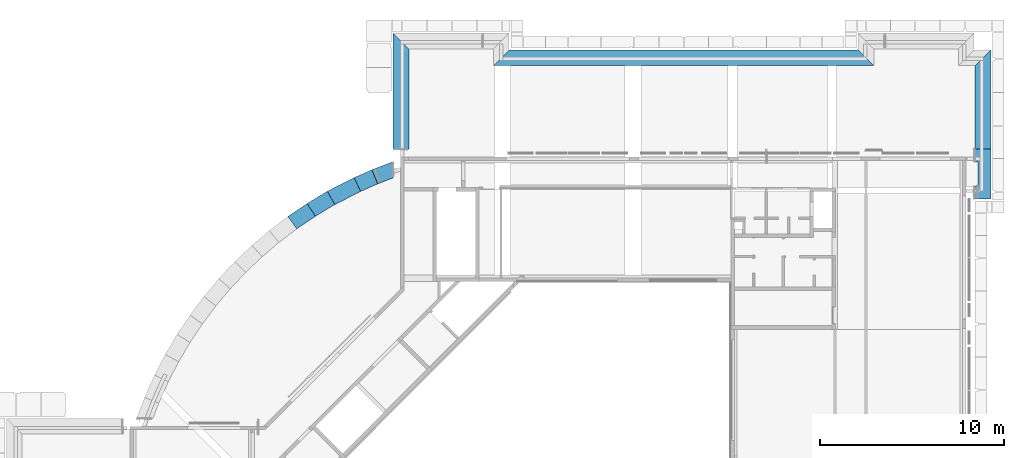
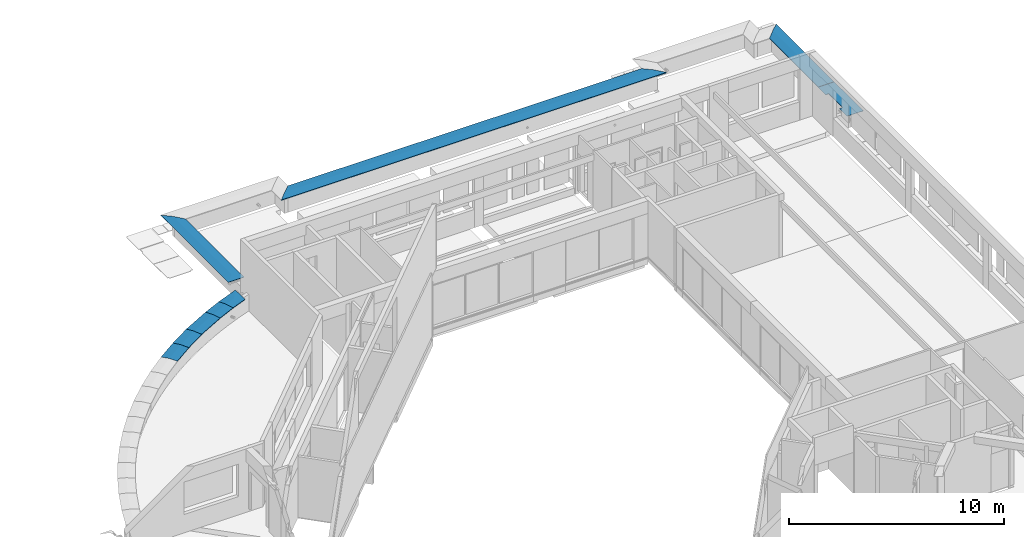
# One storey, part 32 of 38: 9 discrete accessories.
"""IFC4X3_ADD2 building model written with IfcOpenShell, lengths in millimetres."""

from ifc_helpers import new_model, si_unit, direction, frame, origin_with_axes, place, context, subcontext, project, spatial, polygons, source, transform, mapped, material, element, save


model = new_model("IFC4X3_ADD2")

# Units and contexts
model_context = context("Model", 3, precision=1e-05, world=origin_with_axes(), true_north=direction((0.0, 1.0)))
body_context = subcontext(model_context, "Body", "Model", "MODEL_VIEW")
ifc_project = project(units=[si_unit("LENGTHUNIT", "METRE", prefix="MILLI"), si_unit("AREAUNIT", "SQUARE_METRE"), si_unit("VOLUMEUNIT", "CUBIC_METRE"), si_unit("PLANEANGLEUNIT", "RADIAN"), si_unit("TIMEUNIT", "SECOND"), si_unit("MASSUNIT", "GRAM")], contexts=[model_context])

# Site, building, storey
site_placement = place(None, origin_with_axes())
site = spatial("IfcSite", under=ifc_project, at=site_placement, Name="Site", CompositionType="ELEMENT")
building_placement = place(site_placement, origin_with_axes())
building = spatial("IfcBuilding", under=site, at=building_placement, Name="IFC Building Story")
storey_placement = place(building_placement, frame((0.0, 0.0, 10800.0), z_axis=(0.0, 0.0, 1.0), x_axis=(1.0, 0.0, 0.0)))
storey = spatial("IfcBuildingStorey", under=building, at=storey_placement, Name="030", Elevation=10800.0)

# Discrete accessories
ifc_material = material(Name="BB_Metaal_Aluminium_Buitenschrijnwerk")
shared_shape_1 = source(origin_with_axes(), body_context, "Body", "Tessellation", [
    polygons([(-374.999999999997, 374.999999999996, 35.1750423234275), (46.4641064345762, -46.4641064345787, -1.69828907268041), (32.0000000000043, -32.0000000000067, -23.3944487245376), (32.0000000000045, -32.0000000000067, -20.0000000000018), (30.000000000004, -30.0000000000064, -20.0000000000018), (30.000000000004, -30.0000000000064, -30.0000000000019), (50.000000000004, -50.0000000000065, -2.85747255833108e-12), (-374.999999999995, 374.999999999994, 37.1826819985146), (-799.999999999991, 799.999999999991, -2.8523960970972e-12), (-799.999999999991, 799.999999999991, -30.0000000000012), (-789.99999999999, 789.999999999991, -20.0000000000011), (-791.414213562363, 791.414213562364, -18.5857864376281), (-797.999999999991, 797.999999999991, -25.1715728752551), (-797.999999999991, 797.999999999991, -1.832662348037), (19033.5358935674, -46.4641064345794, -1.69828907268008), (19455.0000000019, 374.999999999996, 35.1750423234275), (19878.0000000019, 797.999999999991, -1.83266234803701), (19878.0000000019, 797.999999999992, -25.1715728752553), (19871.4142135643, 791.414213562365, -18.5857864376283), (19870.0000000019, 789.999999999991, -20.0000000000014), (19880.0000000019, 799.999999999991, -30.0), (19880.0000000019, 799.999999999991, -2.78471690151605e-12), (19455.0000000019, 374.999999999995, 37.1826819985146), (19030.0000000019, -50.0000000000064, -2.86984511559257e-12), (19050.0000000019, -30.0000000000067, -30.0000000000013), (19050.0000000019, -30.0000000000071, -20.0000000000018), (19048.0000000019, -32.0000000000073, -20.0000000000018), (19048.0000000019, -32.0000000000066, -23.3944487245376)], [[[3, 4, 5]], [[3, 5, 6]], [[6, 7, 2]], [[6, 2, 3]], [[7, 8, 1]], [[7, 1, 2]], [[14, 1, 8]], [[14, 8, 9]], [[9, 10, 13]], [[9, 13, 14]], [[10, 11, 12]], [[10, 12, 13]], [[18, 19, 20]], [[18, 20, 21]], [[21, 22, 17]], [[21, 17, 18]], [[22, 23, 16]], [[22, 16, 17]], [[23, 24, 15]], [[23, 15, 16]], [[28, 15, 24]], [[28, 24, 25]], [[25, 26, 28]], [[26, 27, 28]], [[2, 1, 16, 15]], [[4, 3, 28, 27]], [[3, 2, 15, 28]], [[6, 5, 26, 25]], [[8, 7, 24, 23]], [[7, 6, 25, 24]], [[9, 8, 23, 22]], [[5, 4, 27, 26]], [[1, 14, 17, 16]], [[10, 9, 22, 21]], [[11, 10, 21, 20]], [[12, 11, 20, 19]], [[13, 12, 19, 18]], [[14, 13, 18, 17]]]),
])
discrete_accessory_1_placement = place(storey_placement, frame((-5725.0, 51150.0, 830.0), z_axis=(0.0, 0.0, 1.0), x_axis=(-1.0, 0.0, 0.0)))
element("IfcDiscreteAccessory", 1, at=discrete_accessory_1_placement, inside=storey, material=ifc_material, Name="BB_05.10.23#02_AluminiumMuurafdek, 850 mm_GLI:XX_Geen", ObjectType="BB_05.10.23#02_AluminiumMuurafdek, 850 mm_GLI:XX_Geen", PredefinedType="USERDEFINED", context=body_context, shape_type="MappedRepresentation", body=[
    mapped(shared_shape_1, transform((0.0, 0.0, 0.0))),
])
shared_shape_2 = source(origin_with_axes(), body_context, "Body", "Tessellation", [
    polygons([(-1.29786000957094, -46.4641064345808, -1.69828907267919), (-0.893840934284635, -32.0000000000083, -23.3944487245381), (-0.89384093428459, -32.0000000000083, -20.0000000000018), (-0.837975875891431, -30.0000000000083, -20.0000000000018), (-0.837975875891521, -30.0000000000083, -30.0000000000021), (-1.3966264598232, -50.0000000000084, -1.89691848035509e-12), (10.1953731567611, 364.999999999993, 36.3077953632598), (21.7873727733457, 779.999999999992, -1.76670900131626e-12), (21.7873727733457, 779.999999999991, -30.0000000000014), (21.5080474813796, 769.999999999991, -20.0000000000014), (21.5475500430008, 771.414213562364, -18.5857864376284), (21.7315077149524, 777.999999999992, -25.1715728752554), (21.7315077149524, 777.999999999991, -1.83266234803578), (10.1953731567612, 364.999999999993, 34.300155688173), (1631.69860786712, -32.0000000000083, -23.3944487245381), (1632.10262694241, -46.4641064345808, -1.69828907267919), (1620.60939377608, 364.999999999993, 34.300155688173), (1609.07325921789, 777.999999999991, -1.83266234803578), (1609.07325921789, 777.999999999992, -25.1715728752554), (1609.25721688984, 771.414213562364, -18.5857864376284), (1609.29671945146, 769.999999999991, -20.0000000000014), (1609.01739415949, 779.999999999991, -30.0000000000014), (1609.01739415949, 779.999999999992, -1.76670900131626e-12), (1620.60939377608, 364.999999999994, 36.3077953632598), (1632.20139339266, -50.0000000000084, -1.89691848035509e-12), (1631.64274280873, -30.0000000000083, -30.0000000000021), (1631.64274280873, -30.0000000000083, -20.0000000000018), (1631.69860786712, -32.0000000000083, -20.0000000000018)], [[[2, 3, 4]], [[2, 4, 5]], [[5, 6, 1]], [[5, 1, 2]], [[14, 1, 6]], [[14, 6, 7]], [[7, 8, 13]], [[7, 13, 14]], [[8, 9, 12]], [[8, 12, 13]], [[9, 10, 11]], [[9, 11, 12]], [[19, 20, 21]], [[19, 21, 22]], [[22, 23, 18]], [[22, 18, 19]], [[23, 24, 17]], [[23, 17, 18]], [[24, 25, 16]], [[24, 16, 17]], [[25, 26, 15]], [[25, 15, 16]], [[26, 27, 15]], [[27, 28, 15]], [[2, 1, 16, 15]], [[1, 14, 17, 16]], [[7, 6, 25, 24]], [[4, 3, 28, 27]], [[6, 5, 26, 25]], [[3, 2, 15, 28]], [[5, 4, 27, 26]], [[8, 7, 24, 23]], [[14, 13, 18, 17]], [[9, 8, 23, 22]], [[10, 9, 22, 21]], [[11, 10, 21, 20]], [[12, 11, 20, 19]], [[13, 12, 19, 18]]]),
])
discrete_accessory_2_placement = place(storey_placement, frame((-33169.1264864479, 44200.419411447, 830.0), z_axis=(0.0, 0.0, 1.0), x_axis=(-0.8918658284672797, -0.4523000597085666, 0.0)))
element("IfcDiscreteAccessory", 2, at=discrete_accessory_2_placement, inside=storey, material=ifc_material, Name="BB_05.10.23#04_AluminiumMuurafdek, 830 mm_GLI:XX_Geen", ObjectType="BB_05.10.23#04_AluminiumMuurafdek, 830 mm_GLI:XX_Geen", PredefinedType="USERDEFINED", context=body_context, shape_type="MappedRepresentation", body=[
    mapped(shared_shape_2, transform((0.0, 0.0, 0.0))),
])
shared_shape_3 = source(origin_with_axes(), body_context, "Body", "Tessellation", [
    polygons([(-1.29786000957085, -46.4641064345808, -1.69828907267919), (-0.89384093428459, -32.0000000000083, -23.3944487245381), (-0.89384093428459, -32.0000000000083, -20.0000000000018), (-0.837975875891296, -30.0000000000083, -20.0000000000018), (-0.837975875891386, -30.0000000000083, -30.0000000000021), (-1.3966264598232, -50.0000000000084, -1.89691848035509e-12), (10.1953731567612, 364.999999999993, 36.3077953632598), (21.7873727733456, 779.999999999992, -1.76670900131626e-12), (21.7873727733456, 779.999999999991, -30.0000000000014), (21.5080474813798, 769.999999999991, -20.0000000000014), (21.547550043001, 771.414213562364, -18.5857864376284), (21.7315077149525, 777.999999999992, -25.1715728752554), (21.7315077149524, 777.999999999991, -1.83266234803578), (10.1953731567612, 364.999999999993, 34.300155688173), (1053.67207705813, -32.0000000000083, -23.3944487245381), (1054.07609613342, -46.4641064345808, -1.69828907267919), (1042.58286296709, 364.999999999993, 34.300155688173), (1031.0467284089, 777.999999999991, -1.83266234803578), (1031.0467284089, 777.999999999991, -25.1715728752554), (1031.23068608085, 771.414213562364, -18.5857864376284), (1031.27018864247, 769.999999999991, -20.0000000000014), (1030.9908633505, 779.999999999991, -30.0000000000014), (1030.9908633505, 779.999999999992, -1.76670900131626e-12), (1042.58286296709, 364.999999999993, 36.3077953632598), (1054.17486258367, -50.0000000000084, -1.89691848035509e-12), (1053.61621199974, -30.0000000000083, -30.0000000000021), (1053.61621199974, -30.0000000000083, -20.0000000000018), (1053.67207705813, -32.0000000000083, -20.0000000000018)], [[[2, 3, 4]], [[2, 4, 5]], [[5, 6, 1]], [[5, 1, 2]], [[14, 1, 6]], [[14, 6, 7]], [[7, 8, 13]], [[7, 13, 14]], [[8, 9, 12]], [[8, 12, 13]], [[9, 10, 11]], [[9, 11, 12]], [[19, 20, 21]], [[19, 21, 22]], [[22, 23, 18]], [[22, 18, 19]], [[23, 24, 17]], [[23, 17, 18]], [[24, 25, 16]], [[24, 16, 17]], [[25, 26, 15]], [[25, 15, 16]], [[26, 27, 15]], [[27, 28, 15]], [[2, 1, 16, 15]], [[1, 14, 17, 16]], [[7, 6, 25, 24]], [[4, 3, 28, 27]], [[6, 5, 26, 25]], [[3, 2, 15, 28]], [[5, 4, 27, 26]], [[8, 7, 24, 23]], [[14, 13, 18, 17]], [[9, 8, 23, 22]], [[10, 9, 22, 21]], [[11, 10, 21, 20]], [[12, 11, 20, 19]], [[13, 12, 19, 18]]]),
])
discrete_accessory_3_placement = place(storey_placement, frame((-32207.365710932, 44628.6228971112, 830.0), z_axis=(0.0, 0.0, 1.0), x_axis=(-0.9135454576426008, -0.4067366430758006, 0.0)))
element("IfcDiscreteAccessory", 3, at=discrete_accessory_3_placement, inside=storey, material=ifc_material, Name="BB_05.10.23#04_AluminiumMuurafdek, 830 mm_GLI:XX_Geen", ObjectType="BB_05.10.23#04_AluminiumMuurafdek, 830 mm_GLI:XX_Geen", PredefinedType="USERDEFINED", context=body_context, shape_type="MappedRepresentation", body=[
    mapped(shared_shape_3, transform((0.0, 0.0, 0.0))),
])
shared_shape_4 = source(origin_with_axes(), body_context, "Body", "Tessellation", [
    polygons([(-1.2978600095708, -46.4641064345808, -1.6982890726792), (-0.89384093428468, -32.0000000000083, -23.3944487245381), (-0.893840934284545, -32.0000000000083, -20.0000000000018), (-0.837975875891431, -30.0000000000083, -20.0000000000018), (-0.837975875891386, -30.0000000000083, -30.0000000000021), (-1.39662645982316, -50.0000000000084, -1.89268853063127e-12), (10.1953731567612, 364.999999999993, 36.3077953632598), (21.7873727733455, 779.999999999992, -1.76670900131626e-12), (21.7873727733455, 779.999999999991, -30.0000000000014), (21.5080474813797, 769.999999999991, -20.0000000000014), (21.5475500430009, 771.414213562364, -18.5857864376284), (21.7315077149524, 777.999999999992, -25.1715728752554), (21.7315077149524, 777.999999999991, -1.83266234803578), (10.1953731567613, 364.999999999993, 34.300155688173), (1260.8938409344, -32.0000000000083, -23.3944487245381), (1261.29786000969, -46.4641064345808, -1.6982890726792), (1249.80462684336, 364.999999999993, 34.300155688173), (1238.26849228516, 777.999999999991, -1.83266234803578), (1238.26849228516, 777.999999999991, -25.1715728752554), (1238.45244995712, 771.414213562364, -18.5857864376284), (1238.49195251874, 769.999999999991, -20.0000000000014), (1238.21262722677, 779.999999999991, -30.0000000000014), (1238.21262722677, 779.999999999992, -1.76670900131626e-12), (1249.80462684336, 364.999999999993, 36.3077953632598), (1261.39662645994, -50.0000000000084, -1.89268853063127e-12), (1260.83797587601, -30.0000000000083, -30.0000000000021), (1260.83797587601, -30.0000000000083, -20.0000000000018), (1260.8938409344, -32.0000000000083, -20.0000000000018)], [[[2, 3, 4]], [[2, 4, 5]], [[5, 6, 1]], [[5, 1, 2]], [[14, 1, 6]], [[14, 6, 7]], [[7, 8, 13]], [[7, 13, 14]], [[8, 9, 12]], [[8, 12, 13]], [[9, 10, 11]], [[9, 11, 12]], [[19, 20, 21]], [[19, 21, 22]], [[22, 23, 18]], [[22, 18, 19]], [[23, 24, 17]], [[23, 17, 18]], [[24, 25, 16]], [[24, 16, 17]], [[25, 26, 15]], [[25, 15, 16]], [[26, 27, 15]], [[27, 28, 15]], [[2, 1, 16, 15]], [[1, 14, 17, 16]], [[7, 6, 25, 24]], [[4, 3, 28, 27]], [[6, 5, 26, 25]], [[3, 2, 15, 28]], [[5, 4, 27, 26]], [[8, 7, 24, 23]], [[14, 13, 18, 17]], [[9, 8, 23, 22]], [[10, 9, 22, 21]], [[11, 10, 21, 20]], [[12, 11, 20, 19]], [[13, 12, 19, 18]]]),
])
discrete_accessory_4_placement = place(storey_placement, frame((-35717.7532117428, 42798.5796350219, 830.0), z_axis=(0.0, 0.0, 1.0), x_axis=(-0.8290564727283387, -0.5591648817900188, 0.0)))
element("IfcDiscreteAccessory", 4, at=discrete_accessory_4_placement, inside=storey, material=ifc_material, Name="BB_05.10.23#04_AluminiumMuurafdek, 830 mm_GLI:XX_Geen", ObjectType="BB_05.10.23#04_AluminiumMuurafdek, 830 mm_GLI:XX_Geen", PredefinedType="USERDEFINED", context=body_context, shape_type="MappedRepresentation", body=[
    mapped(shared_shape_4, transform((0.0, 0.0, 0.0))),
])
shared_shape_5 = source(origin_with_axes(), body_context, "Body", "Tessellation", [
    polygons([(-1.2978600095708, -46.4641064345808, -1.69828907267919), (-0.893840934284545, -32.0000000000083, -23.3944487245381), (-0.89384093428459, -32.0000000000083, -20.0000000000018), (-0.837975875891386, -30.0000000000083, -20.0000000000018), (-0.837975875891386, -30.0000000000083, -30.0000000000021), (-1.3966264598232, -50.0000000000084, -1.89409851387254e-12), (10.1953731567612, 364.999999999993, 36.3077953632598), (21.7873727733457, 779.999999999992, -1.76670900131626e-12), (21.7873727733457, 779.999999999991, -30.0000000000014), (21.5080474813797, 769.999999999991, -20.0000000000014), (21.5475500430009, 771.414213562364, -18.5857864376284), (21.7315077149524, 777.999999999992, -25.1715728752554), (21.7315077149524, 777.999999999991, -1.83266234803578), (10.1953731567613, 364.999999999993, 34.300155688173), (1280.89384093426, -32.0000000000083, -23.3944487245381), (1281.29786000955, -46.4641064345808, -1.69828907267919), (1269.80462684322, 364.999999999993, 34.300155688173), (1258.26849228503, 777.999999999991, -1.83266234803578), (1258.26849228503, 777.999999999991, -25.1715728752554), (1258.45244995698, 771.414213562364, -18.5857864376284), (1258.4919525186, 769.999999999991, -20.0000000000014), (1258.21262722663, 779.999999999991, -30.0000000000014), (1258.21262722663, 779.999999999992, -1.76670900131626e-12), (1269.80462684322, 364.999999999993, 36.3077953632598), (1281.3966264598, -50.0000000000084, -1.89716466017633e-12), (1280.83797587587, -30.0000000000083, -30.0000000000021), (1280.83797587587, -30.0000000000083, -20.0000000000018), (1280.89384093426, -32.0000000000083, -20.0000000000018)], [[[2, 3, 4]], [[2, 4, 5]], [[5, 6, 1]], [[5, 1, 2]], [[14, 1, 6]], [[14, 6, 7]], [[7, 8, 13]], [[7, 13, 14]], [[8, 9, 12]], [[8, 12, 13]], [[9, 10, 11]], [[9, 11, 12]], [[19, 20, 21]], [[19, 21, 22]], [[22, 23, 18]], [[22, 18, 19]], [[23, 24, 17]], [[23, 17, 18]], [[24, 25, 16]], [[24, 16, 17]], [[25, 26, 15]], [[25, 15, 16]], [[26, 27, 15]], [[27, 28, 15]], [[2, 1, 16, 15]], [[1, 14, 17, 16]], [[7, 6, 25, 24]], [[4, 3, 28, 27]], [[6, 5, 26, 25]], [[3, 2, 15, 28]], [[5, 4, 27, 26]], [[8, 7, 24, 23]], [[14, 13, 18, 17]], [[9, 8, 23, 22]], [[10, 9, 22, 21]], [[11, 10, 21, 20]], [[12, 11, 20, 19]], [[13, 12, 19, 18]]]),
])
discrete_accessory_5_placement = place(storey_placement, frame((-34623.5855309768, 43462.8063179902, 830.0), z_axis=(0.0, 0.0, 1.0), x_axis=(-0.854818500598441, -0.5189270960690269, 0.0)))
element("IfcDiscreteAccessory", 5, at=discrete_accessory_5_placement, inside=storey, material=ifc_material, Name="BB_05.10.23#04_AluminiumMuurafdek, 830 mm_GLI:XX_Geen", ObjectType="BB_05.10.23#04_AluminiumMuurafdek, 830 mm_GLI:XX_Geen", PredefinedType="USERDEFINED", context=body_context, shape_type="MappedRepresentation", body=[
    mapped(shared_shape_5, transform((0.0, 0.0, 0.0))),
])
shared_shape_6 = source(origin_with_axes(), body_context, "Body", "Tessellation", [
    polygons([(904.392850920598, -780.000000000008, -1.37591498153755e-12), (890.466426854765, -760.471012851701, -30.0), (1194.0806243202, 30.4710128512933, -30.0), (1223.00000000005, 49.9999999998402, 5.06612852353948e-11), (608.454283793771, -365.005955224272, 37.1829460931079), (901.930733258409, -776.547379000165, -1.69828907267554), (608.454283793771, -365.005955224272, 35.1753064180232), (1217.88720828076, 46.5473789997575, -1.69828907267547), (1196.97256188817, 32.4239115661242, -23.3944487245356), (891.859069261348, -762.423911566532, -23.3944487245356), (1196.97256188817, 32.4239115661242, -19.895184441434), (891.859069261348, -762.423911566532, -19.895184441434), (1194.0806243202, 30.4710128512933, -19.895184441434), (890.466426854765, -760.471012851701, -19.895184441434)], [[[1, 2, 3, 4]], [[4, 5, 1]], [[6, 7, 8]], [[8, 9, 10, 6]], [[9, 11, 12, 10]], [[11, 13, 14, 12]], [[2, 14, 13, 3]], [[10, 12, 14]], [[10, 14, 2]], [[2, 1, 6]], [[2, 6, 10]], [[1, 5, 7]], [[1, 7, 6]], [[8, 7, 5]], [[8, 5, 4]], [[4, 3, 9]], [[4, 9, 8]], [[3, 13, 9]], [[13, 11, 9]]]),
    polygons([(1223.0, 50.0000000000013, 0.0), (1193.38312795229, 30.0000000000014, -30.0), (0.558650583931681, 30.0000000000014, -30.0), (0.0, 50.0000000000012, 0.0), (11.5919996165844, -365.0, 36.3077953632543), (608.449905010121, -365.0, 36.3077953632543), (11.5919996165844, -365.0, 34.3001556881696), (608.449905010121, -365.0, 34.3001556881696), (0.0987664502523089, 46.4641064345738, -1.69828907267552), (1217.76389463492, 46.464106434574, -1.6982890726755), (0.502785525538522, 32.0, -23.3944487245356), (1196.34481515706, 32.0, -23.3944487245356), (0.502785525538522, 32.0, -19.895184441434), (1196.34481515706, 32.0, -19.895184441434), (0.558650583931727, 30.0000000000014, -19.895184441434), (1193.38312795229, 30.0000000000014, -19.895184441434)], [[[1, 2, 3, 4]], [[4, 5, 6, 1]], [[7, 8, 6, 5]], [[9, 10, 8, 7]], [[11, 12, 10, 9]], [[13, 14, 12, 11]], [[15, 16, 14, 13]], [[3, 2, 16, 15]], [[9, 7, 5]], [[9, 5, 4]], [[4, 3, 11]], [[4, 11, 9]], [[3, 15, 11]], [[15, 13, 11]], [[12, 14, 16]], [[12, 16, 2]], [[2, 1, 10]], [[2, 10, 12]], [[1, 6, 8]], [[1, 8, 10]]]),
    polygons([(11.5919996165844, -365.0, 36.3077953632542), (11.5919996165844, -365.0, 34.3001556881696), (23.1281341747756, -778.000000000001, -1.83266234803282), (23.1281341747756, -778.000000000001, -25.1715728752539), (22.9441765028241, -771.414213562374, -18.585786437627), (22.9046739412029, -770.000000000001, -20.0), (23.1839992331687, -780.000000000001, -30.0), (23.1839992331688, -780.000000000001, 0.0), (904.392850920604, -780.000000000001, 0.0), (608.449905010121, -365.0, 36.3077953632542), (608.449905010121, -365.0, 34.3001556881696), (902.966619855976, -778.000000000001, -1.83266234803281), (904.392850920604, -780.000000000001, -29.9999999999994), (897.261695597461, -770.000000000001, -20.0), (898.270193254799, -771.414213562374, -18.585786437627), (902.966619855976, -778.000000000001, -25.1715728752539)], [[[4, 5, 6]], [[4, 6, 7]], [[7, 8, 3]], [[7, 3, 4]], [[8, 1, 2]], [[8, 2, 3]], [[9, 10, 1, 8]], [[1, 10, 11, 2]], [[2, 11, 12, 3]], [[12, 11, 10]], [[12, 10, 9]], [[9, 13, 16]], [[9, 16, 12]], [[13, 14, 15]], [[13, 15, 16]], [[3, 12, 16, 4]], [[4, 16, 15, 5]], [[5, 15, 14, 6]], [[7, 6, 14, 13]], [[8, 7, 13, 9]]]),
])
discrete_accessory_6_placement = place(storey_placement, frame((-32208.850464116, 44628.0368504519, 830.0), z_axis=(0.0, 0.0, 1.0), x_axis=(0.9335804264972, 0.358367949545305, 0.0)))
element("IfcDiscreteAccessory", 6, at=discrete_accessory_6_placement, inside=storey, material=ifc_material, Name="BB_05.10.23#04_AluminiumMuurafdek eindstuk, 830 mm_GMO:XX_Geen", ObjectType="BB_05.10.23#04_AluminiumMuurafdek eindstuk, 830 mm_GMO:XX_Geen", PredefinedType="USERDEFINED", context=body_context, shape_type="MappedRepresentation", body=[
    mapped(shared_shape_6, transform((0.0, 0.0, 0.0))),
])
shared_shape_7 = source(origin_with_axes(), body_context, "Body", "Tessellation", [
    polygons([(5390.0, -799.999999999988, 0.0), (5370.0, -779.999999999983, -30.0), (5370.0, 30.0000000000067, -30.0), (5390.0, 50.0, -2.52086804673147e-12), (4965.00000000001, -374.999999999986, 37.1826819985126), (5386.46410643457, -796.464106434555, -1.6982890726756), (4965.00000000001, -374.999999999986, 35.1750423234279), (5386.46410643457, 46.4641064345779, -1.69828907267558), (5372.0, 32.0000000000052, -23.3944487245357), (5372.0, -781.999999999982, -23.3944487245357), (5372.0, 32.000000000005, -19.895184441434), (5372.0, -781.999999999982, -19.895184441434), (5370.0, 30.000000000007, -19.895184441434), (5370.0, -779.999999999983, -19.895184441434)], [[[1, 2, 3, 4]], [[4, 5, 1]], [[6, 7, 8]], [[8, 9, 10, 6]], [[9, 11, 12, 10]], [[11, 13, 14, 12]], [[2, 14, 13, 3]], [[8, 7, 5]], [[8, 5, 4]], [[4, 3, 9]], [[4, 9, 8]], [[3, 13, 9]], [[13, 11, 9]], [[10, 12, 14]], [[10, 14, 2]], [[2, 1, 6]], [[2, 6, 10]], [[1, 5, 7]], [[1, 7, 6]]]),
    polygons([(5390.0, 50.0000000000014, 0.0), (5370.0, 30.0000000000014, -30.0), (19.9999999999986, 30.0000000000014, -30.0), (-1.08286712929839e-12, 50.0000000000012, 0.0), (425.000000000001, -375.0, 37.1826819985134), (4964.99999999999, -375.0, 37.1826819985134), (3.53589356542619, 46.4641064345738, -1.69828907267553), (5386.46410643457, 46.4641064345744, -1.69828907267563), (4964.99999999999, -375.0, 35.1750423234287), (425.000000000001, -375.0, 35.1750423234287), (17.9999999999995, 32.0, -23.3944487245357), (5372.0, 32.0, -23.3944487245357), (17.9999999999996, 32.0, -19.895184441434), (5372.0, 32.0, -19.895184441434), (19.9999999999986, 30.0000000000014, -19.895184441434), (5370.0, 30.0000000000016, -19.895184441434)], [[[1, 2, 3, 4]], [[4, 5, 6, 1]], [[7, 8, 9, 10]], [[11, 12, 8, 7]], [[13, 14, 12, 11]], [[15, 16, 14, 13]], [[3, 2, 16, 15]], [[7, 10, 5]], [[7, 5, 4]], [[4, 3, 11]], [[4, 11, 7]], [[3, 15, 11]], [[15, 13, 11]], [[12, 14, 16]], [[12, 16, 2]], [[2, 1, 8]], [[2, 8, 12]], [[1, 6, 9]], [[1, 9, 8]], [[10, 9, 6, 5]]]),
    polygons([(425.000000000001, -375.0, 37.1826819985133), (425.000000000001, -375.0, 35.1750423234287), (848.000000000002, -798.000000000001, -1.83266234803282), (848.000000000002, -798.000000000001, -25.1715728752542), (841.414213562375, -791.414213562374, -18.5857864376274), (840.000000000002, -790.000000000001, -20.0), (850.000000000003, -800.000000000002, -30.0), (850.000000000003, -800.000000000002, 0.0), (5390.00000000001, -799.999999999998, 0.0), (4965.00000000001, -374.999999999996, 37.1826819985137), (4965.00000000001, -374.999999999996, 35.1750423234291), (5388.00000000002, -798.000000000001, -1.8326623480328), (5390.00000000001, -799.999999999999, -29.9999999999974), (5380.00000000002, -790.000000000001, -20.0), (5381.4142135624, -791.414213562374, -18.5857864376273), (5388.00000000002, -798.000000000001, -25.171572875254)], [[[4, 5, 6]], [[4, 6, 7]], [[7, 8, 3]], [[7, 3, 4]], [[8, 1, 2]], [[8, 2, 3]], [[9, 10, 1, 8]], [[2, 11, 12, 3]], [[12, 11, 10]], [[12, 10, 9]], [[9, 13, 16]], [[9, 16, 12]], [[13, 14, 15]], [[13, 15, 16]], [[3, 12, 16, 4]], [[4, 16, 15, 5]], [[5, 15, 14, 6]], [[7, 6, 14, 13]], [[8, 7, 13, 9]], [[1, 10, 11, 2]]]),
])
discrete_accessory_7_placement = place(storey_placement, frame((1385.0, 51200.0, 830.0), z_axis=(0.0, 0.0, 1.0), x_axis=(0.0, -1.0, 0.0)))
element("IfcDiscreteAccessory", 7, at=discrete_accessory_7_placement, inside=storey, material=ifc_material, Name="BB_05.10.23#02_AluminiumMuurafdek eindstuk, 850 mm_GMO:XX_Geen", ObjectType="BB_05.10.23#02_AluminiumMuurafdek eindstuk, 850 mm_GMO:XX_Geen", PredefinedType="USERDEFINED", context=body_context, shape_type="MappedRepresentation", body=[
    mapped(shared_shape_7, transform((0.0, 0.0, 0.0))),
])
shared_shape_8 = source(origin_with_axes(), body_context, "Body", "Tessellation", [
    polygons([(6290.1, 799.999999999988, 0.0), (6290.1, -50.0, -2.34677735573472e-12), (6270.1, -30.0000000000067, -30.0), (6270.1, 779.999999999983, -29.9999999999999), (5865.10000000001, 374.999999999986, 37.1826819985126), (6286.56410643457, 796.464106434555, -1.69828907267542), (6286.56410643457, -46.464106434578, -1.69828907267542), (5865.10000000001, 374.999999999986, 35.1750423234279), (6272.1, 781.999999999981, -23.3944487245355), (6272.1, -32.0000000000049, -23.3944487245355), (6272.1, 781.999999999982, -19.895184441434), (6272.1, -32.0000000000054, -19.895184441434), (6270.1, 779.999999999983, -19.895184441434), (6270.1, -30.000000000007, -19.895184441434)], [[[1, 2, 3, 4]], [[2, 1, 5]], [[6, 7, 8]], [[7, 6, 9, 10]], [[10, 9, 11, 12]], [[12, 11, 13, 14]], [[4, 3, 14, 13]], [[10, 12, 14]], [[10, 14, 3]], [[3, 2, 7]], [[3, 7, 10]], [[2, 5, 8]], [[2, 8, 7]], [[6, 8, 5]], [[6, 5, 1]], [[1, 4, 9]], [[1, 9, 6]], [[4, 13, 9]], [[13, 11, 9]]]),
    polygons([(6290.1, -50.0000000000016, 0.0), (-1.35358391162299e-12, -50.0000000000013, 0.0), (19.9999999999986, -30.0000000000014, -30.0), (6270.1, -30.0000000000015, -30.0), (5865.09999999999, 375.0, 37.1826819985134), (425.000000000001, 375.0, 37.1826819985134), (3.5358935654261, -46.4641064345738, -1.69828907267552), (425.000000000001, 375.0, 35.1750423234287), (5865.09999999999, 375.0, 35.1750423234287), (6286.56410643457, -46.4641064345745, -1.6982890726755), (17.9999999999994, -32.0, -23.3944487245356), (6272.1, -32.0, -23.3944487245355), (17.9999999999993, -32.0, -19.895184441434), (6272.1, -32.0000000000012, -19.895184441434), (19.9999999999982, -30.0000000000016, -19.895184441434), (6270.1, -30.0000000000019, -19.895184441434)], [[[1, 2, 3, 4]], [[2, 1, 5, 6]], [[7, 8, 9, 10]], [[11, 7, 10, 12]], [[13, 11, 12, 14]], [[15, 13, 14, 16]], [[3, 15, 16, 4]], [[11, 13, 15]], [[11, 15, 3]], [[3, 2, 7]], [[3, 7, 11]], [[2, 6, 8]], [[2, 8, 7]], [[10, 9, 5]], [[10, 5, 1]], [[1, 4, 12]], [[1, 12, 10]], [[4, 16, 12]], [[16, 14, 12]], [[8, 6, 5, 9]]]),
    polygons([(425.000000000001, 375.0, 37.1826819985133), (850.000000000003, 800.000000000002, 0.0), (850.000000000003, 800.000000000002, -30.0), (840.000000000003, 790.000000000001, -20.0), (841.414213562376, 791.414213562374, -18.5857864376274), (848.000000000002, 798.000000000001, -25.1715728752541), (848.000000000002, 798.000000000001, -1.83266234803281), (425.000000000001, 375.0, 35.1750423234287), (6290.10000000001, 799.999999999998, 0.0), (5865.10000000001, 374.999999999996, 37.1826819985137), (6288.10000000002, 798.000000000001, -1.8326623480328), (5865.10000000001, 374.999999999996, 35.1750423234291), (6288.10000000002, 798.000000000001, -25.171572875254), (6281.5142135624, 791.414213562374, -18.5857864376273), (6280.10000000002, 790.000000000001, -20.0), (6290.10000000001, 799.999999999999, -29.9999999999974)], [[[7, 8, 1]], [[7, 1, 2]], [[2, 3, 6]], [[2, 6, 7]], [[3, 4, 5]], [[3, 5, 6]], [[9, 2, 1, 10]], [[8, 7, 11, 12]], [[13, 14, 15]], [[13, 15, 16]], [[16, 9, 11]], [[16, 11, 13]], [[9, 10, 12]], [[9, 12, 11]], [[7, 6, 13, 11]], [[6, 5, 14, 13]], [[5, 4, 15, 14]], [[3, 16, 15, 4]], [[2, 9, 16, 3]], [[1, 8, 12, 10]]]),
])
discrete_accessory_8_placement = place(storey_placement, frame((-31015.0, 52100.0, 830.0), z_axis=(0.0, 0.0, 1.0), x_axis=(0.0, -1.0, 0.0)))
element("IfcDiscreteAccessory", 8, at=discrete_accessory_8_placement, inside=storey, material=ifc_material, Name="BB_05.10.23#02_AluminiumMuurafdek eindstuk, 850 mm_GMO:XX_Geen", ObjectType="BB_05.10.23#02_AluminiumMuurafdek eindstuk, 850 mm_GMO:XX_Geen", PredefinedType="USERDEFINED", context=body_context, shape_type="MappedRepresentation", body=[
    mapped(shared_shape_8, transform((0.0, 0.0, 0.0))),
])
shared_shape_9 = source(origin_with_axes(), body_context, "Body", "Tessellation", [
    polygons([(2008.53589356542, -828.964106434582, -1.69828907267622), (2008.53589356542, -302.500000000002, -1.69828907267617), (2357.49999999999, -302.500000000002, 28.8321142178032), (2357.5, -480.000000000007, 28.8321142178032), (2022.99999999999, -814.500000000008, -23.3944487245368), (2022.99999999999, -302.500000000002, -23.3944487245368), (2022.99999999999, -814.500000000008, -19.8951844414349), (2022.99999999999, -302.500000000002, -19.8951844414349), (2024.99999999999, -812.500000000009, -19.8951844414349), (2024.99999999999, -302.500000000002, -19.8951844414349), (2692.0, -814.500000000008, -19.8951844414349), (2692.0, 32.000000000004, -19.8951844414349), (2690.0, 30.000000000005, -19.8951844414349), (2690.0, -812.500000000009, -19.8951844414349), (2024.99999999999, -812.500000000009, -30.0), (2024.99999999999, -302.500000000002, -30.0), (2005.0, -832.500000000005, 0.0), (2005.0, -302.500000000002, 0.0), (2357.5, -480.000000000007, 30.8397538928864), (2357.49999999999, -302.500000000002, 30.8397538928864), (2706.46410643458, -828.964106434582, -1.69828907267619), (2692.0, -814.500000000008, -23.3944487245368), (2690.0, -812.500000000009, -30.0), (2710.0, -832.500000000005, 0.0), (2357.5, -302.5, 28.8321142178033), (2706.46410643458, 46.4641064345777, -1.6982890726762), (2692.0, 32.0000000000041, -23.3944487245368), (2690.0, 30.000000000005, -30.0), (2710.0, 49.9999999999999, 0.0), (2357.5, -302.5, 30.8397538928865)], [[[1, 2, 3, 4]], [[5, 6, 2, 1]], [[7, 8, 6, 5]], [[9, 10, 8]], [[9, 8, 7]], [[14, 9, 7]], [[14, 7, 11]], [[11, 12, 13]], [[11, 13, 14]], [[15, 16, 10, 9]], [[17, 18, 16, 15]], [[19, 20, 18, 17]], [[4, 3, 20, 19]], [[4, 21, 1]], [[1, 21, 22, 5]], [[5, 22, 11, 7]], [[14, 23, 15, 9]], [[15, 23, 24, 17]], [[17, 24, 19]], [[4, 25, 26, 21]], [[21, 26, 27, 22]], [[22, 27, 12, 11]], [[14, 13, 28, 23]], [[23, 28, 29, 24]], [[24, 29, 30, 19]], [[19, 30, 25, 4]], [[6, 8, 10]], [[6, 10, 16]], [[16, 18, 2]], [[16, 2, 6]], [[18, 20, 3]], [[18, 3, 2]], [[26, 25, 30]], [[26, 30, 29]], [[29, 28, 27]], [[29, 27, 26]], [[28, 13, 27]], [[13, 12, 27]]]),
    polygons([(352.500000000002, -480.000000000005, 28.8321142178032), (352.500000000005, -302.500000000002, 28.8321142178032), (701.46410643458, -302.500000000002, -1.6982890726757), (701.46410643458, -828.964106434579, -1.69828907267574), (687.000000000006, -302.500000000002, -23.3944487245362), (687.000000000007, -814.500000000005, -23.3944487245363), (687.000000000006, -302.500000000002, -19.8951844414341), (687.000000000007, -814.500000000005, -19.8951844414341), (685.000000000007, -302.500000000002, -19.8951844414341), (685.000000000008, -812.500000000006, -19.8951844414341), (19.9999999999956, -812.500000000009, -19.8951844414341), (19.9999999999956, 30.000000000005, -19.8951844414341), (17.9999999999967, 32.0000000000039, -19.8951844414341), (17.9999999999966, -814.500000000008, -19.8951844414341), (685.000000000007, -302.500000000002, -30.0), (685.000000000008, -812.500000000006, -30.0), (705.000000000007, -302.500000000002, 0.0), (705.000000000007, -832.500000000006, 0.0), (352.500000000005, -302.500000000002, 30.8397538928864), (352.500000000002, -480.000000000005, 30.8397538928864), (3.53589356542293, -828.964106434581, -1.69828907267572), (17.9999999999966, -814.500000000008, -23.3944487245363), (19.9999999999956, -812.500000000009, -30.0), (-4.15381062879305e-12, -832.500000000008, 0.0), (3.53589356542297, 46.4641064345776, -1.69828907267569), (352.499999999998, -302.5, 28.8321142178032), (17.9999999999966, 32.000000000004, -23.3944487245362), (19.9999999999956, 30.0000000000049, -30.0), (0.0, 50.0, -2.38521705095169e-12), (352.499999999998, -302.5, 30.8397538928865)], [[[1, 2, 3, 4]], [[4, 3, 5, 6]], [[6, 5, 7, 8]], [[11, 12, 13]], [[11, 13, 14]], [[14, 8, 10]], [[14, 10, 11]], [[8, 7, 9]], [[8, 9, 10]], [[10, 9, 15, 16]], [[16, 15, 17, 18]], [[18, 17, 19, 20]], [[20, 19, 2, 1]], [[4, 21, 1]], [[6, 22, 21, 4]], [[8, 14, 22, 6]], [[10, 16, 23, 11]], [[18, 24, 23, 16]], [[20, 24, 18]], [[21, 25, 26, 1]], [[22, 27, 25, 21]], [[14, 13, 27, 22]], [[23, 28, 12, 11]], [[24, 29, 28, 23]], [[20, 30, 29, 24]], [[1, 26, 30, 20]], [[3, 2, 19]], [[3, 19, 17]], [[17, 15, 5]], [[17, 5, 3]], [[15, 9, 5]], [[9, 7, 5]], [[27, 13, 12]], [[27, 12, 28]], [[28, 29, 25]], [[28, 25, 27]], [[29, 30, 26]], [[29, 26, 25]]]),
    polygons([(705.075931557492, -655.000000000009, 0.0), (2004.99999999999, -655.000000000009, 0.0), (2357.5, -302.500000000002, 30.8397538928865), (352.537965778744, -302.500000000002, 30.8397538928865), (0.0, 50.0000000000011, 0.0), (2710.0, 50.000000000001, 0.0), (2690.0, 30.0000000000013, -30.0), (20.0021540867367, 30.0000000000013, -30.0), (2690.0, 30.0000000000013, -19.8951844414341), (20.0021540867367, 30.0000000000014, -19.8951844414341), (2692.0, 32.0, -19.8951844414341), (18.0019386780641, 32.0, -19.8951844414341), (2692.0, 32.0, -23.3944487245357), (18.0019386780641, 32.0, -23.3944487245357), (2706.46410643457, 46.4641064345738, -1.69828907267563), (3.53627439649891, 46.4641064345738, -1.69828907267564), (2357.50000000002, -302.499999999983, 28.8321142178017), (352.537965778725, -302.499999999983, 28.8321142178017), (2006.99999999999, -653.000000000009, -1.83266234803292), (703.075716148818, -653.000000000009, -1.83266234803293), (2006.99999999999, -653.000000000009, -25.0667573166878), (703.075716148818, -653.000000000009, -25.066757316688), (2013.58578643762, -646.414213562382, -18.4809708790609), (696.489220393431, -646.414213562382, -18.480970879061), (2014.99999999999, -645.000000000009, -19.8951844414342), (695.074854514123, -645.000000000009, -19.8951844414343), (2004.99999999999, -655.000000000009, -29.8951844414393), (705.075931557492, -655.000000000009, -29.8951844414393)], [[[1, 2, 3, 4]], [[5, 4, 3, 6]], [[6, 7, 8, 5]], [[8, 7, 9, 10]], [[10, 9, 11, 12]], [[12, 11, 13, 14]], [[14, 13, 15, 16]], [[16, 15, 17, 18]], [[18, 17, 19, 20]], [[20, 19, 21, 22]], [[22, 21, 23, 24]], [[24, 23, 25, 26]], [[26, 25, 27, 28]], [[28, 27, 2, 1]], [[22, 24, 26]], [[22, 26, 28]], [[28, 1, 20]], [[28, 20, 22]], [[1, 4, 18]], [[1, 18, 20]], [[4, 5, 16]], [[4, 16, 18]], [[5, 8, 14]], [[5, 14, 16]], [[8, 10, 14]], [[10, 12, 14]], [[13, 11, 9]], [[13, 9, 7]], [[7, 6, 15]], [[7, 15, 13]], [[6, 3, 17]], [[6, 17, 15]], [[3, 2, 19]], [[3, 19, 17]], [[2, 27, 21]], [[2, 21, 19]], [[27, 25, 23]], [[27, 23, 21]]]),
])
discrete_accessory_9_placement = place(storey_placement, frame((1385.0, 45800.0, 830.0), z_axis=(0.0, 0.0, 1.0), x_axis=(0.0, -1.0, 0.0)))
element("IfcDiscreteAccessory", 9, at=discrete_accessory_9_placement, inside=storey, material=ifc_material, Name="BB_05.10.23#01_AluminiumMuurafdek U-vorm_GMO:XX_Geen", ObjectType="BB_05.10.23#01_AluminiumMuurafdek U-vorm_GMO:XX_Geen", PredefinedType="USERDEFINED", context=body_context, shape_type="MappedRepresentation", body=[
    mapped(shared_shape_9, transform((0.0, 0.0, 0.0))),
])

save(model, "model.ifc")
